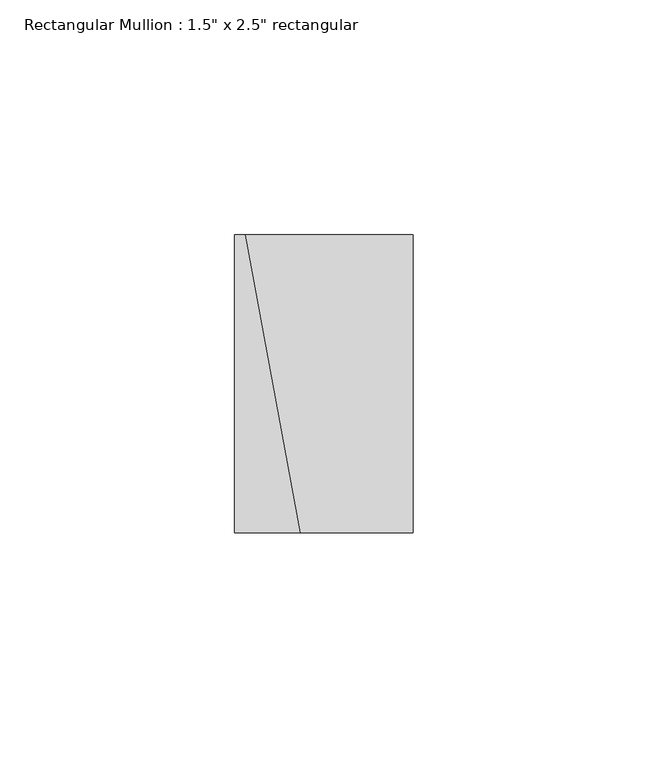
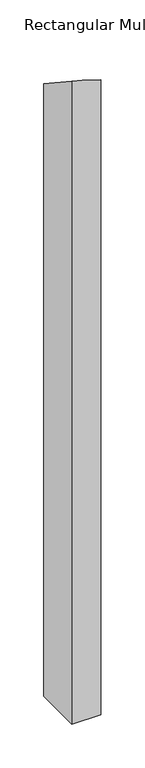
"""IFC4 building model written with IfcOpenShell, lengths in millimetres: member geometry."""

from ifc_helpers import new_model, si_unit, origin, place, context, project, spatial, faceted_brep, source, transform, mapped, element, save


def member_4cab8adf(model_context):
    return source(origin(), model_context, "Body", "Brep", [
        faceted_brep([(19.05, 31.75, -906.7722117), (19.05, -31.75, -906.7722117), (-19.05, -31.75, -906.7722117), (-19.05, 31.75, -906.7722117), (-19.05, 31.75, -55.035181), (-16.7207393, 31.75, -55.6767503), (19.05, 31.75, -67.3216658), (-19.05, -31.75, -12.7439208), (19.05, -31.75, -24.4426608), (-4.9902446, -31.75, -16.6165263)], [[[0, 1, 2, 3]], [[4, 5, 6, 0, 3]], [[7, 4, 3, 2]], [[8, 9, 7, 2, 1]], [[6, 8, 1, 0]], [[6, 5, 9, 8]], [[5, 4, 7, 9]]]),
    ])


if __name__ == "__main__":
    model = new_model("IFC4")
    model_context = context("Model", 3, world=origin())
    ifc_project = project(units=[si_unit("LENGTHUNIT", "METRE", prefix="MILLI")], contexts=[model_context])
    site = spatial("IfcSite", under=ifc_project)
    building = spatial("IfcBuilding", under=site)
    placement = place(None, origin())
    member_shape = member_4cab8adf(model_context)
    element("IfcMember", 1, ObjectType="Rectangular Mullion : 1.5\" x 2.5\" rectangular", at=placement, inside=building, context=model_context, shape_type="MappedRepresentation", body=[
        mapped(member_shape, transform((0.0, 0.0, 0.0), x_axis=(1.0, 0.0, 0.0), y_axis=(0.0, 1.0, 0.0), z_axis=(0.0, 0.0, 1.0))),
    ])
    save(model, "model.ifc")
